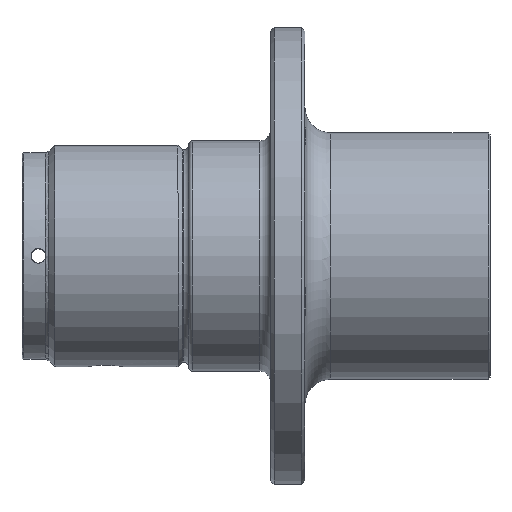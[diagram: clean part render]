
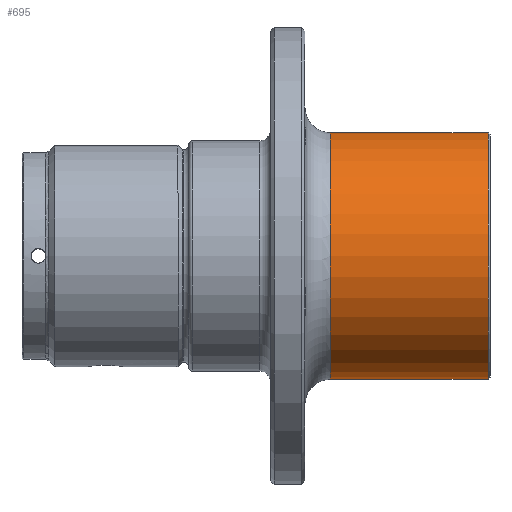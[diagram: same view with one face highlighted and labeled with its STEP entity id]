
A CAD part, top view. The second image highlights one B-rep face of the part: STEP entity #695.
In plain terms, the highlighted cylindrical face has radius 34 mm (diameter 68 mm), a partial arc.
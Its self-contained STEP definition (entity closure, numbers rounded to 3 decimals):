
#59 = LINE ( 'NONE', #1498, #3431 ) ;
#220 = VERTEX_POINT ( 'NONE', #566 ) ;
#566 = CARTESIAN_POINT ( 'NONE',  ( 85., -34., 0. ) ) ;
#648 = CARTESIAN_POINT ( 'NONE',  ( 85., 0., 0. ) ) ;
#660 = DIRECTION ( 'NONE',  ( 0., -1., 0. ) ) ;
#695 = ADVANCED_FACE ( 'NONE', ( #4250 ), #1011, .T. ) ;
#744 = VERTEX_POINT ( 'NONE', #1766 ) ;
#762 = DIRECTION ( 'NONE',  ( 0., -1., 0. ) ) ;
#877 = ORIENTED_EDGE ( 'NONE', *, *, #962, .T. ) ;
#962 = EDGE_CURVE ( 'NONE', #1133, #220, #4647, .T. ) ;
#1011 = CYLINDRICAL_SURFACE ( 'NONE', #1312, 34. ) ;
#1064 = EDGE_CURVE ( 'NONE', #744, #2374, #1243, .T. ) ;
#1133 = VERTEX_POINT ( 'NONE', #3775 ) ;
#1216 = DIRECTION ( 'NONE',  ( -1., 0., 0. ) ) ;
#1243 = CIRCLE ( 'NONE', #3273, 34. ) ;
#1312 = AXIS2_PLACEMENT_3D ( 'NONE', #2451, #3905, #660 ) ;
#1398 = AXIS2_PLACEMENT_3D ( 'NONE', #648, #2085, #3536 ) ;
#1498 = CARTESIAN_POINT ( 'NONE',  ( 0., -34., 0. ) ) ;
#1766 = CARTESIAN_POINT ( 'NONE',  ( 128.5, -34., 0. ) ) ;
#2037 = EDGE_CURVE ( 'NONE', #744, #220, #59, .T. ) ;
#2085 = DIRECTION ( 'NONE',  ( 1., 0., 0. ) ) ;
#2374 = VERTEX_POINT ( 'NONE', #3931 ) ;
#2451 = CARTESIAN_POINT ( 'NONE',  ( 0., 0., 0. ) ) ;
#2468 = VECTOR ( 'NONE', #1216, 1000. ) ;
#2555 = CARTESIAN_POINT ( 'NONE',  ( 128.5, 0., 0. ) ) ;
#2924 = DIRECTION ( 'NONE',  ( -1., 0., 0. ) ) ;
#3005 = LINE ( 'NONE', #4457, #2468 ) ;
#3273 = AXIS2_PLACEMENT_3D ( 'NONE', #2555, #4015, #762 ) ;
#3431 = VECTOR ( 'NONE', #2924, 1000. ) ;
#3460 = EDGE_LOOP ( 'NONE', ( #3647, #3683, #877, #4020 ) ) ;
#3536 = DIRECTION ( 'NONE',  ( 0., -1., 0. ) ) ;
#3647 = ORIENTED_EDGE ( 'NONE', *, *, #1064, .T. ) ;
#3683 = ORIENTED_EDGE ( 'NONE', *, *, #4505, .T. ) ;
#3775 = CARTESIAN_POINT ( 'NONE',  ( 85., 34., 0. ) ) ;
#3905 = DIRECTION ( 'NONE',  ( -1., 0., 0. ) ) ;
#3931 = CARTESIAN_POINT ( 'NONE',  ( 128.5, 34., 0. ) ) ;
#4015 = DIRECTION ( 'NONE',  ( -1., 0., 0. ) ) ;
#4020 = ORIENTED_EDGE ( 'NONE', *, *, #2037, .F. ) ;
#4250 = FACE_OUTER_BOUND ( 'NONE', #3460, .T. ) ;
#4457 = CARTESIAN_POINT ( 'NONE',  ( 0., 34., 0. ) ) ;
#4505 = EDGE_CURVE ( 'NONE', #2374, #1133, #3005, .T. ) ;
#4647 = CIRCLE ( 'NONE', #1398, 34. ) ;
